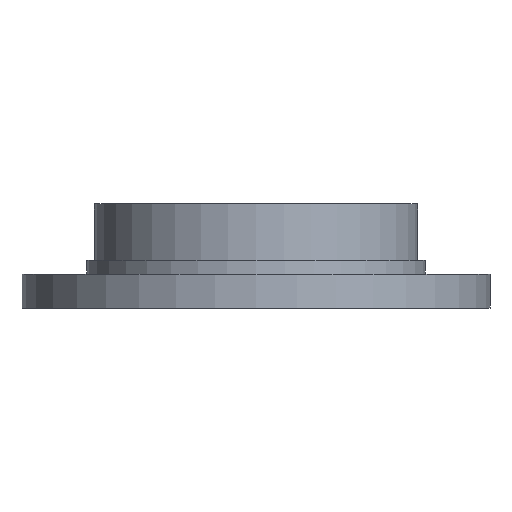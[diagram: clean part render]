
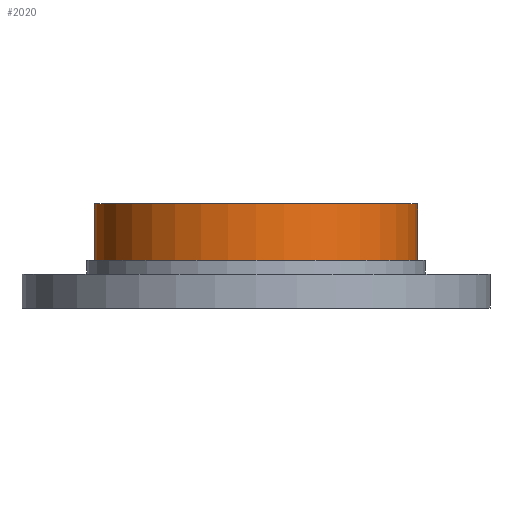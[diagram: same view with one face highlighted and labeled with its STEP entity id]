
A CAD part, front view. The second image highlights one B-rep face of the part: STEP entity #2020.
In plain terms, the highlighted cylindrical face has radius 20.025 mm (diameter 40.05 mm), a full revolution.
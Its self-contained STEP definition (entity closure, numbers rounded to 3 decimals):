
#1972 = PLANE('',#1973);
#1973 = AXIS2_PLACEMENT_3D('',#1974,#1975,#1976);
#1974 = CARTESIAN_POINT('',(0.,0.,6.1)
  );
#1975 = DIRECTION('',(0.,0.,1.));
#1976 = DIRECTION('',(1.,0.,-0.));
#1992 = EDGE_CURVE('',#1993,#1993,#1995,.T.);
#1993 = VERTEX_POINT('',#1994);
#1994 = CARTESIAN_POINT('',(20.025,0.,6.1));
#1995 = SURFACE_CURVE('',#1996,(#2001,#2008),.PCURVE_S1.);
#1996 = CIRCLE('',#1997,20.025);
#1997 = AXIS2_PLACEMENT_3D('',#1998,#1999,#2000);
#1998 = CARTESIAN_POINT('',(0.,0.,6.1));
#1999 = DIRECTION('',(0.,0.,1.));
#2000 = DIRECTION('',(1.,0.,0.));
#2001 = PCURVE('',#1972,#2002);
#2002 = DEFINITIONAL_REPRESENTATION('',(#2003),#2007);
#2003 = CIRCLE('',#2004,20.025);
#2004 = AXIS2_PLACEMENT_2D('',#2005,#2006);
#2005 = CARTESIAN_POINT('',(0.,0.));
#2006 = DIRECTION('',(1.,0.));
#2007 = ( GEOMETRIC_REPRESENTATION_CONTEXT(2) 
PARAMETRIC_REPRESENTATION_CONTEXT() REPRESENTATION_CONTEXT('2D SPACE',''
  ) );
#2008 = PCURVE('',#2009,#2014);
#2009 = CYLINDRICAL_SURFACE('',#2010,20.025);
#2010 = AXIS2_PLACEMENT_3D('',#2011,#2012,#2013);
#2011 = CARTESIAN_POINT('',(0.,0.,6.1));
#2012 = DIRECTION('',(-0.,-0.,-1.));
#2013 = DIRECTION('',(1.,0.,0.));
#2014 = DEFINITIONAL_REPRESENTATION('',(#2015),#2019);
#2015 = LINE('',#2016,#2017);
#2016 = CARTESIAN_POINT('',(-0.,0.));
#2017 = VECTOR('',#2018,1.);
#2018 = DIRECTION('',(-1.,0.));
#2019 = ( GEOMETRIC_REPRESENTATION_CONTEXT(2) 
PARAMETRIC_REPRESENTATION_CONTEXT() REPRESENTATION_CONTEXT('2D SPACE',''
  ) );
#2020 = ADVANCED_FACE('',(#2021),#2009,.T.);
#2021 = FACE_BOUND('',#2022,.F.);
#2022 = EDGE_LOOP('',(#2023,#2046,#2073,#2074));
#2023 = ORIENTED_EDGE('',*,*,#2024,.T.);
#2024 = EDGE_CURVE('',#1993,#2025,#2027,.T.);
#2025 = VERTEX_POINT('',#2026);
#2026 = CARTESIAN_POINT('',(20.025,0.,13.1));
#2027 = SEAM_CURVE('',#2028,(#2032,#2039),.PCURVE_S1.);
#2028 = LINE('',#2029,#2030);
#2029 = CARTESIAN_POINT('',(20.025,0.,6.1));
#2030 = VECTOR('',#2031,1.);
#2031 = DIRECTION('',(0.,0.,1.));
#2032 = PCURVE('',#2009,#2033);
#2033 = DEFINITIONAL_REPRESENTATION('',(#2034),#2038);
#2034 = LINE('',#2035,#2036);
#2035 = CARTESIAN_POINT('',(-0.,0.));
#2036 = VECTOR('',#2037,1.);
#2037 = DIRECTION('',(-0.,-1.));
#2038 = ( GEOMETRIC_REPRESENTATION_CONTEXT(2) 
PARAMETRIC_REPRESENTATION_CONTEXT() REPRESENTATION_CONTEXT('2D SPACE',''
  ) );
#2039 = PCURVE('',#2009,#2040);
#2040 = DEFINITIONAL_REPRESENTATION('',(#2041),#2045);
#2041 = LINE('',#2042,#2043);
#2042 = CARTESIAN_POINT('',(-6.283,0.));
#2043 = VECTOR('',#2044,1.);
#2044 = DIRECTION('',(-0.,-1.));
#2045 = ( GEOMETRIC_REPRESENTATION_CONTEXT(2) 
PARAMETRIC_REPRESENTATION_CONTEXT() REPRESENTATION_CONTEXT('2D SPACE',''
  ) );
#2046 = ORIENTED_EDGE('',*,*,#2047,.T.);
#2047 = EDGE_CURVE('',#2025,#2025,#2048,.T.);
#2048 = SURFACE_CURVE('',#2049,(#2054,#2061),.PCURVE_S1.);
#2049 = CIRCLE('',#2050,20.025);
#2050 = AXIS2_PLACEMENT_3D('',#2051,#2052,#2053);
#2051 = CARTESIAN_POINT('',(0.,0.,13.1));
#2052 = DIRECTION('',(0.,0.,1.));
#2053 = DIRECTION('',(1.,0.,0.));
#2054 = PCURVE('',#2009,#2055);
#2055 = DEFINITIONAL_REPRESENTATION('',(#2056),#2060);
#2056 = LINE('',#2057,#2058);
#2057 = CARTESIAN_POINT('',(-0.,-7.));
#2058 = VECTOR('',#2059,1.);
#2059 = DIRECTION('',(-1.,0.));
#2060 = ( GEOMETRIC_REPRESENTATION_CONTEXT(2) 
PARAMETRIC_REPRESENTATION_CONTEXT() REPRESENTATION_CONTEXT('2D SPACE',''
  ) );
#2061 = PCURVE('',#2062,#2067);
#2062 = PLANE('',#2063);
#2063 = AXIS2_PLACEMENT_3D('',#2064,#2065,#2066);
#2064 = CARTESIAN_POINT('',(0.,0.,13.1));
#2065 = DIRECTION('',(0.,0.,1.));
#2066 = DIRECTION('',(1.,0.,-0.));
#2067 = DEFINITIONAL_REPRESENTATION('',(#2068),#2072);
#2068 = CIRCLE('',#2069,20.025);
#2069 = AXIS2_PLACEMENT_2D('',#2070,#2071);
#2070 = CARTESIAN_POINT('',(0.,0.));
#2071 = DIRECTION('',(1.,0.));
#2072 = ( GEOMETRIC_REPRESENTATION_CONTEXT(2) 
PARAMETRIC_REPRESENTATION_CONTEXT() REPRESENTATION_CONTEXT('2D SPACE',''
  ) );
#2073 = ORIENTED_EDGE('',*,*,#2024,.F.);
#2074 = ORIENTED_EDGE('',*,*,#1992,.F.);
